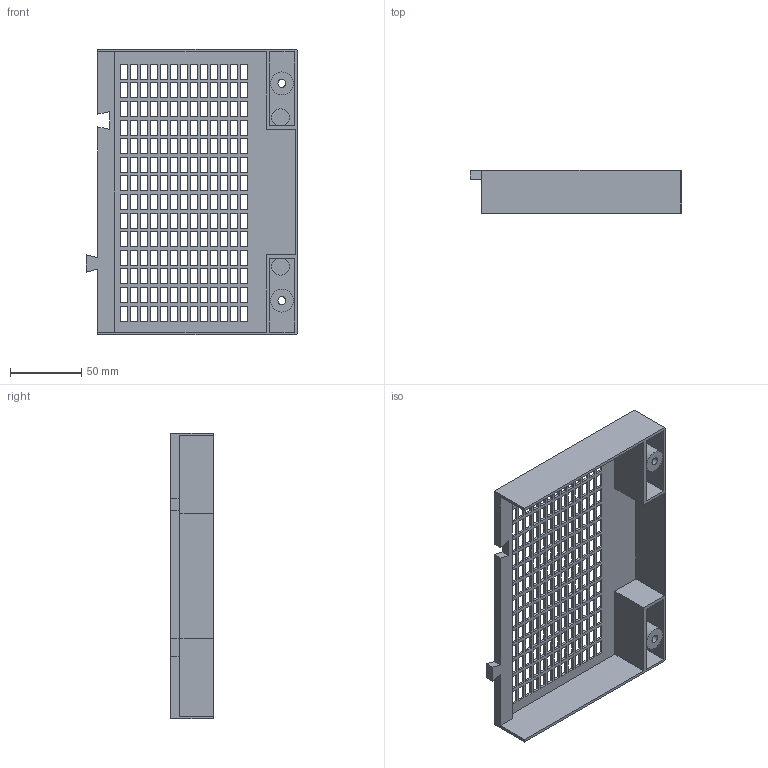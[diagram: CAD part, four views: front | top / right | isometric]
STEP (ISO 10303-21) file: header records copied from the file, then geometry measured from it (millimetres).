
FILE_DESCRIPTION(('Open CASCADE Model'),'2;1');
FILE_NAME('Open CASCADE Shape Model','2026-10-27T02:33:58',('Author'),( 'Open CASCADE'),'Open CASCADE STEP processor 7.9','Open CASCADE 7.9' ,'Unknown');
FILE_SCHEMA(('AUTOMOTIVE_DESIGN { 1 0 10303 214 1 1 1 1 }'));
Products named in the file (1): Open CASCADE STEP translator 7.9 4
Bounding box: 147.8 x 30 x 200 mm (x, y, z)
Volume: 84586.2 mm3; surface area: 89352.1 mm2
Topology: 1 solids, 1 shells, 782 faces, 2316 edges, 1544 vertices
Faces by surface type: plane 772, cylinder 10
Full cylindrical faces by diameter (mm): 5.5 x2, 6.4 x2, 10.5 x2, 16 x2
Entity records: 54222 total; most frequent: CARTESIAN_POINT 11579, DIRECTION 6270, LINE 4652, VECTOR 4652, ORIENTED_EDGE 4632, PCURVE 4632, DEFINITIONAL_REPRESENTATION 4632, EDGE_CURVE 2316
